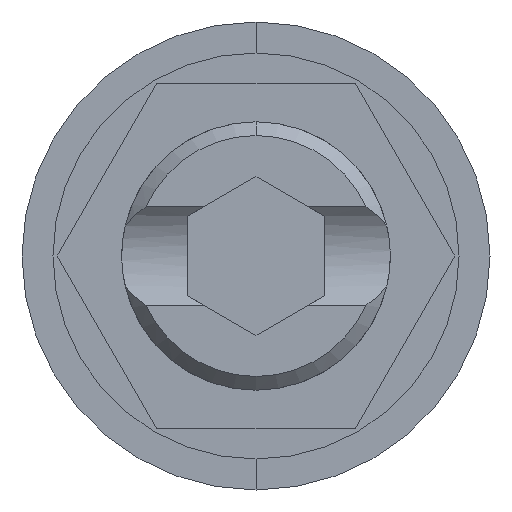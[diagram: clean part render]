
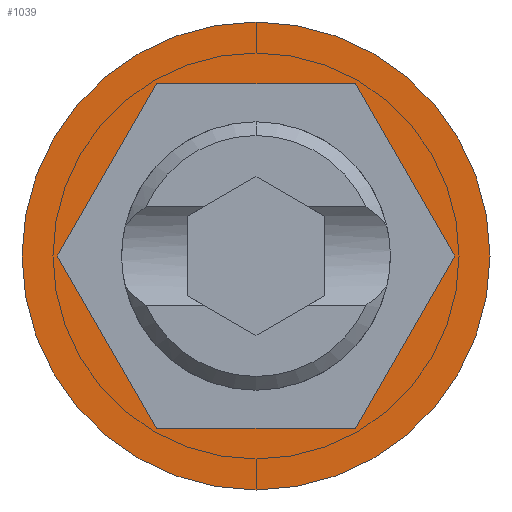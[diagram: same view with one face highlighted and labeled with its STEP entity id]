
A CAD part, front view. The second image highlights one B-rep face of the part: STEP entity #1039.
In plain terms, the highlighted planar face has unit normal (0, -1, 0).
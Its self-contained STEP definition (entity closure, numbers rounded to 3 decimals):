
#58 = CARTESIAN_POINT ( 'NONE',  ( 1.443, 0., 2.5 ) ) ;
#117 = CARTESIAN_POINT ( 'NONE',  ( 1.443, 0., -2.5 ) ) ;
#229 = DIRECTION ( 'NONE',  ( 0., -1., 0. ) ) ;
#306 = VECTOR ( 'NONE', #1906, 1000. ) ;
#318 = EDGE_CURVE ( 'NONE', #519, #3877, #4990, .T. ) ;
#398 = CARTESIAN_POINT ( 'NONE',  ( 0., 0., -3.4 ) ) ;
#490 = DIRECTION ( 'NONE',  ( -0.5, 0., -0.866 ) ) ;
#519 = VERTEX_POINT ( 'NONE', #117 ) ;
#607 = ORIENTED_EDGE ( 'NONE', *, *, #4189, .F. ) ;
#648 = CARTESIAN_POINT ( 'NONE',  ( 2.887, 0., 0. ) ) ;
#721 = ORIENTED_EDGE ( 'NONE', *, *, #5052, .T. ) ;
#800 = CARTESIAN_POINT ( 'NONE',  ( 0., 0., 0. ) ) ;
#868 = DIRECTION ( 'NONE',  ( 0., -1., 0. ) ) ;
#1011 = VECTOR ( 'NONE', #1966, 1000. ) ;
#1039 = ADVANCED_FACE ( 'NONE', ( #4169, #4272 ), #2117, .T. ) ;
#1162 = CARTESIAN_POINT ( 'NONE',  ( 2.887, 0., 0. ) ) ;
#1206 = DIRECTION ( 'NONE',  ( 0., 0., -1. ) ) ;
#1363 = VERTEX_POINT ( 'NONE', #2895 ) ;
#1464 = CARTESIAN_POINT ( 'NONE',  ( 0., 0., 0. ) ) ;
#1517 = CARTESIAN_POINT ( 'NONE',  ( -1.443, 0., -2.5 ) ) ;
#1572 = CARTESIAN_POINT ( 'NONE',  ( 1.443, 0., 2.5 ) ) ;
#1594 = DIRECTION ( 'NONE',  ( 0.5, 0., -0.866 ) ) ;
#1742 = ORIENTED_EDGE ( 'NONE', *, *, #4352, .F. ) ;
#1838 = ORIENTED_EDGE ( 'NONE', *, *, #4326, .F. ) ;
#1858 = EDGE_CURVE ( 'NONE', #3844, #1363, #4366, .T. ) ;
#1906 = DIRECTION ( 'NONE',  ( 1., 0., 0. ) ) ;
#1965 = VECTOR ( 'NONE', #2620, 1000. ) ;
#1966 = DIRECTION ( 'NONE',  ( -1., 0., 0. ) ) ;
#1992 = CIRCLE ( 'NONE', #2259, 3.4 ) ;
#2105 = CARTESIAN_POINT ( 'NONE',  ( -2.887, 0., 0. ) ) ;
#2115 = EDGE_LOOP ( 'NONE', ( #721, #3786 ) ) ;
#2117 = PLANE ( 'NONE',  #3948 ) ;
#2165 = VERTEX_POINT ( 'NONE', #4630 ) ;
#2259 = AXIS2_PLACEMENT_3D ( 'NONE', #800, #3608, #1206 ) ;
#2382 = LINE ( 'NONE', #2105, #2533 ) ;
#2389 = VECTOR ( 'NONE', #490, 1000. ) ;
#2390 = DIRECTION ( 'NONE',  ( 0., 0., -1. ) ) ;
#2406 = CARTESIAN_POINT ( 'NONE',  ( -1.443, 0., -2.5 ) ) ;
#2459 = LINE ( 'NONE', #1517, #306 ) ;
#2533 = VECTOR ( 'NONE', #1594, 1000. ) ;
#2535 = ORIENTED_EDGE ( 'NONE', *, *, #1858, .F. ) ;
#2620 = DIRECTION ( 'NONE',  ( 0.5, 0., 0.866 ) ) ;
#2776 = EDGE_CURVE ( 'NONE', #2165, #5062, #4604, .T. ) ;
#2895 = CARTESIAN_POINT ( 'NONE',  ( -2.887, 0., 0. ) ) ;
#3021 = VECTOR ( 'NONE', #4344, 1000. ) ;
#3110 = VERTEX_POINT ( 'NONE', #2406 ) ;
#3129 = LINE ( 'NONE', #1162, #3021 ) ;
#3282 = CARTESIAN_POINT ( 'NONE',  ( 0., 0., 0. ) ) ;
#3284 = VERTEX_POINT ( 'NONE', #58 ) ;
#3310 = CARTESIAN_POINT ( 'NONE',  ( -1.443, 0., 2.5 ) ) ;
#3513 = ORIENTED_EDGE ( 'NONE', *, *, #4778, .F. ) ;
#3608 = DIRECTION ( 'NONE',  ( 0., -1., 0. ) ) ;
#3672 = DIRECTION ( 'NONE',  ( 0., 0., -1. ) ) ;
#3786 = ORIENTED_EDGE ( 'NONE', *, *, #2776, .T. ) ;
#3825 = CARTESIAN_POINT ( 'NONE',  ( -1.443, 0., 2.5 ) ) ;
#3844 = VERTEX_POINT ( 'NONE', #3825 ) ;
#3877 = VERTEX_POINT ( 'NONE', #648 ) ;
#3929 = EDGE_LOOP ( 'NONE', ( #607, #3513, #2535, #1742, #1838, #4935 ) ) ;
#3948 = AXIS2_PLACEMENT_3D ( 'NONE', #1464, #229, #2390 ) ;
#4063 = LINE ( 'NONE', #1572, #1011 ) ;
#4169 = FACE_BOUND ( 'NONE', #3929, .T. ) ;
#4189 = EDGE_CURVE ( 'NONE', #3110, #519, #2459, .T. ) ;
#4272 = FACE_OUTER_BOUND ( 'NONE', #2115, .T. ) ;
#4326 = EDGE_CURVE ( 'NONE', #3877, #3284, #3129, .T. ) ;
#4344 = DIRECTION ( 'NONE',  ( -0.5, 0., 0.866 ) ) ;
#4352 = EDGE_CURVE ( 'NONE', #3284, #3844, #4063, .T. ) ;
#4366 = LINE ( 'NONE', #3310, #2389 ) ;
#4604 = CIRCLE ( 'NONE', #4768, 3.4 ) ;
#4630 = CARTESIAN_POINT ( 'NONE',  ( 0., 0., 3.4 ) ) ;
#4768 = AXIS2_PLACEMENT_3D ( 'NONE', #3282, #868, #3672 ) ;
#4778 = EDGE_CURVE ( 'NONE', #1363, #3110, #2382, .T. ) ;
#4873 = CARTESIAN_POINT ( 'NONE',  ( 1.443, 0., -2.5 ) ) ;
#4935 = ORIENTED_EDGE ( 'NONE', *, *, #318, .F. ) ;
#4990 = LINE ( 'NONE', #4873, #1965 ) ;
#5052 = EDGE_CURVE ( 'NONE', #5062, #2165, #1992, .T. ) ;
#5062 = VERTEX_POINT ( 'NONE', #398 ) ;
